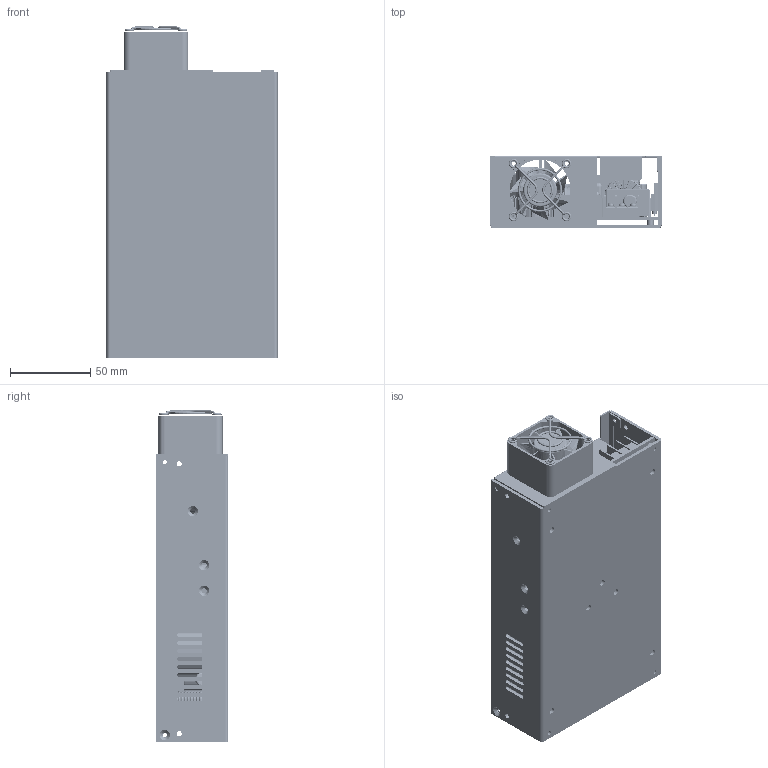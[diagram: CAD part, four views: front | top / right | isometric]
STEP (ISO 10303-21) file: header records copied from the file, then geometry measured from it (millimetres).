
FILE_DESCRIPTION (( 'STEP AP203' ), '1' );
FILE_NAME ('Assem3.STEP', '2012-10-17T08:43:54', ( '微软用户' ), ( '微软中国' ), 'SwSTEP 2.0', 'SolidWorks 2010', '' );
FILE_SCHEMA (( 'CONFIG_CONTROL_DESIGN' ));
Products named in the file (30): 耜瑞圮; 湮傷赽窪伎; Part3; 蓝电容; 线圈带框; 方蓝电容; 黄歪电容; xx; 灰电容; 懦伎萇郯; Assem3; Part1; Part2; 肣翐; 苤傷赽窪伎; 线圈 大; 曹揤ん; 黑大电容; 儒极湮; 绿大电容; 方灰电容; 蓝歪电容; 耜醱啣1; 儒极; YJ; 黑大电容1; 酴伎萇郯; 閡伎萇郯; Part8; 湮萇郯
Assembly tree (66 placements, depth 2):
  Assem3
    方灰电容  x2
    蓝歪电容  x4
    黄歪电容  x3
    儒极  x7
    酴伎萇郯  x4
    黑大电容1
    儒极湮  x2
    閡伎萇郯  x4
    苤傷赽窪伎
    蓝电容  x3
    懦伎萇郯  x4
    肣翐  x4
    线圈 大  x3
    黑大电容  x2
    耜醱啣1
    湮萇郯  x4
    YJ
    Part2
    灰电容  x5
    xx
    曹揤ん
    耜瑞圮
    方蓝电容
    Part8
    绿大电容
    Part1
    线圈带框
    湮傷赽窪伎
    Part3
Bounding box: 106.5 x 45 x 206 mm (x, y, z)
Volume: 308558.7 mm3; surface area: 239964.9 mm2
Topology: 225 solids, 226 shells, 6145 faces, 15091 edges, 9219 vertices
Faces by surface type: cylinder 2190, plane 2158, torus 1530, bspline 113, sphere 88, cone 66
Entity records: 129071 total; most frequent: CARTESIAN_POINT 30914, DIRECTION 20140, ORIENTED_EDGE 19426, EDGE_CURVE 9713, AXIS2_PLACEMENT_3D 7165, VERTEX_POINT 6111, VECTOR 5810, LINE 5810
